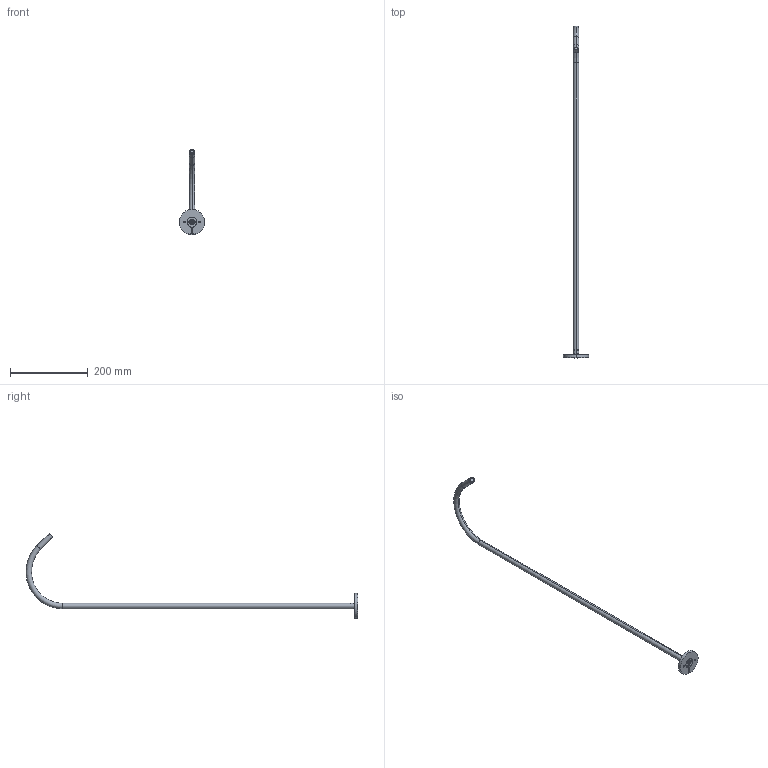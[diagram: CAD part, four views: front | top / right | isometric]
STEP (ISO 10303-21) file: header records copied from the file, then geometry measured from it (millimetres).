
FILE_DESCRIPTION (( 'STEP AP203' ), '1' );
FILE_NAME ('TWIG_Path Way 45 1.STEP', '2026-08-26T11:54:12', ( '' ), ( '' ), 'SwSTEP 2.0', 'SolidWorks 2016', '' );
FILE_SCHEMA (( 'CONFIG_CONTROL_DESIGN' ));
Length unit declared in the file: millimetre
Products named in the file (9): 0-TWI-0004-0-00_NIPPLO BASE M12x1 D.17 H.16.5_1; TWIG_Path Way 45  1; 0-TWI-0005_0-00_BASE FISSA D.65 H.8mm FRES LAT_Forato; 0-TWI-0006-0-26_TUBO d.14 incl. L=847mm_Down_750; 0-TWI-0003-0-00_DIFFUSORE D.12 H.6.7mm M12x1 PC. TRASP_incassato
Assembly tree (4 placements, depth 2):
  0-TWI-0004-0-00_NIPPLO BASE M12x1 D.17 H.16.5_1
  TWIG_Path Way 45  1
    0-TWI-0006-0-26_TUBO d.14 incl. L=847mm_Down_750
    0-TWI-0005_0-00_BASE FISSA D.65 H.8mm FRES LAT_Forato
    0-TWI-0004-0-00_NIPPLO BASE M12x1 D.17 H.16.5_1
    0-TWI-0003-0-00_DIFFUSORE D.12 H.6.7mm M12x1 PC. TRASP_incassato
  0-TWI-0005_0-00_BASE FISSA D.65 H.8mm FRES LAT_Forato
  0-TWI-0003-0-00_DIFFUSORE D.12 H.6.7mm M12x1 PC. TRASP_incassato
  0-TWI-0006-0-26_TUBO d.14 incl. L=847mm_Down_750
Bounding box: 65 x 854.85 x 219.49 mm (x, y, z)
Volume: 99652.1 mm3; surface area: 86661.8 mm2
Topology: 4 solids, 4 shells, 103 faces, 236 edges, 152 vertices
Faces by surface type: cylinder 55, plane 28, cone 16, torus 4
Entity records: 4033 total; most frequent: CARTESIAN_POINT 784, DIRECTION 560, ORIENTED_EDGE 472, EDGE_CURVE 236, AXIS2_PLACEMENT_3D 232, VERTEX_POINT 152, EDGE_LOOP 124, CIRCLE 121
